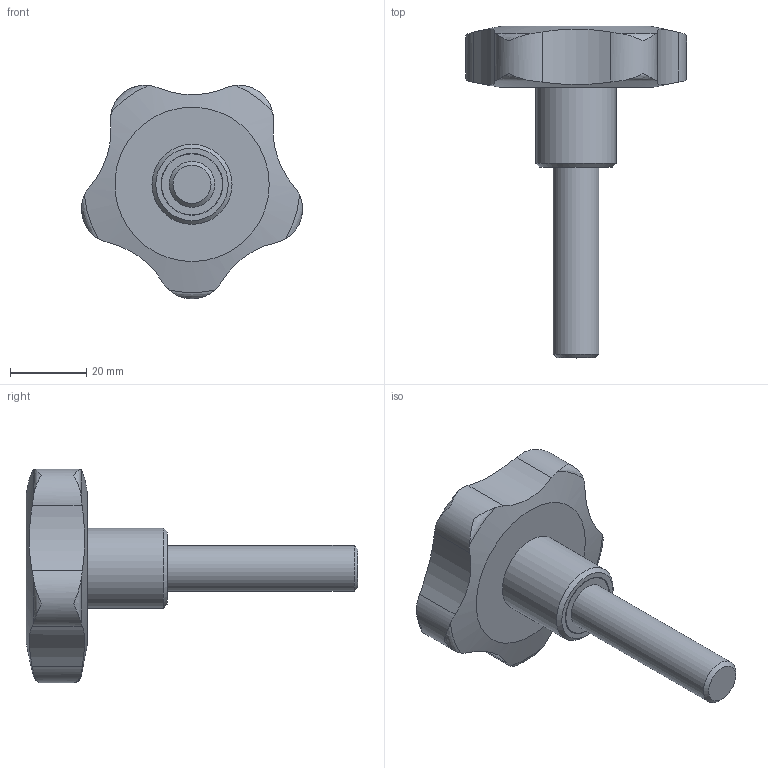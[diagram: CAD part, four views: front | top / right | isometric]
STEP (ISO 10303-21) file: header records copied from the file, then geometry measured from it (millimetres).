
FILE_DESCRIPTION( ( 'STEP AP203' ), '1' );
FILE_NAME( 'C:/Temp/Ganter_Step_05_03_2020/data/2_2/gn_5337_4/gn_5337_4_s/Star knob GN 5337.4-60-M12-50.stp', '2020-03-05T12:09:52', ( 'License CC BY-ND 4.0' ), ( 'CADENAS' ), ' ', 'PARTsolutions', ' ' );
FILE_SCHEMA( ( 'CONFIG_CONTROL_DESIGN' ) );
Length unit declared in the file: millimetre
Products named in the file (1): _Star knob GN 5337.4-60-M12-50
Bounding box: 57.94 x 87 x 55.99 mm (x, y, z)
Volume: 46073.2 mm3; surface area: 10112.8 mm2
Topology: 1 solids, 1 shells, 34 faces, 90 edges, 61 vertices
Faces by surface type: cylinder 14, torus 10, plane 5, cone 3, bspline 1, sphere 1
Full cylindrical faces by diameter (mm): 12 x1, 16 x1, 16.2 x1, 21 x1
Entity records: 1493 total; most frequent: CARTESIAN_POINT 730, ORIENTED_EDGE 154, DIRECTION 122, EDGE_CURVE 77, VERTEX_POINT 58, AXIS2_PLACEMENT_3D 56, EDGE_LOOP 46, B_SPLINE_CURVE_WITH_KNOTS 45
